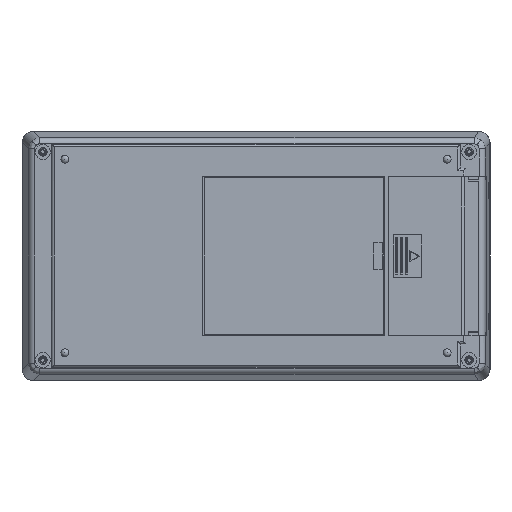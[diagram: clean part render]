
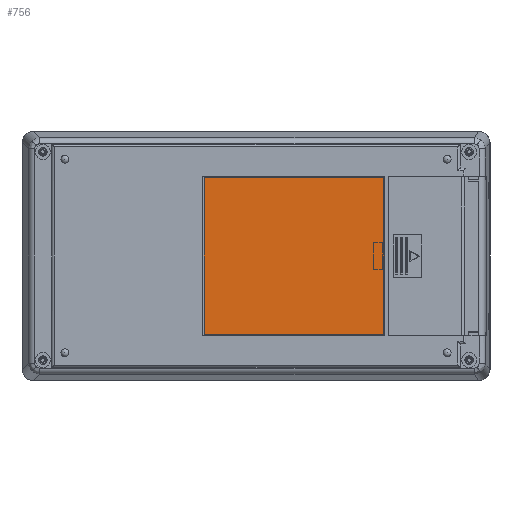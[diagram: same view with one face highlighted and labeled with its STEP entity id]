
A CAD part, front view. The second image highlights one B-rep face of the part: STEP entity #756.
In plain terms, the highlighted planar face has unit normal (0, -1, 0).
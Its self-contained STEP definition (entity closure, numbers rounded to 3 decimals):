
#756 = ADVANCED_FACE ( 'NONE', ( #14499 ), #8651, .T. ) ;
#1188 = VECTOR ( 'NONE', #15909, 1000. ) ;
#1558 = CARTESIAN_POINT ( 'NONE',  ( 52.1, -18.3, -32. ) ) ;
#1838 = CARTESIAN_POINT ( 'NONE',  ( 52.1, -18.3, 32. ) ) ;
#2050 = CARTESIAN_POINT ( 'NONE',  ( -95.3, -18.3, -50.7 ) ) ;
#2730 = VERTEX_POINT ( 'NONE', #14868 ) ;
#3473 = ORIENTED_EDGE ( 'NONE', *, *, #26463, .T. ) ;
#3781 = VECTOR ( 'NONE', #24007, 1000. ) ;
#4483 = LINE ( 'NONE', #1838, #3781 ) ;
#5292 = ORIENTED_EDGE ( 'NONE', *, *, #10744, .T. ) ;
#5696 = VECTOR ( 'NONE', #21113, 1000. ) ;
#6584 = VERTEX_POINT ( 'NONE', #6741 ) ;
#6697 = ORIENTED_EDGE ( 'NONE', *, *, #12140, .T. ) ;
#6741 = CARTESIAN_POINT ( 'NONE',  ( -21.2, -18.3, -32. ) ) ;
#7792 = LINE ( 'NONE', #22514, #1188 ) ;
#8651 = PLANE ( 'NONE',  #9320 ) ;
#8757 = DIRECTION ( 'NONE',  ( 0., 0., -1. ) ) ;
#9320 = AXIS2_PLACEMENT_3D ( 'NONE', #2050, #22003, #8757 ) ;
#9362 = CARTESIAN_POINT ( 'NONE',  ( 52.1, -18.3, 32. ) ) ;
#9774 = CARTESIAN_POINT ( 'NONE',  ( -21.2, -18.3, 32. ) ) ;
#10744 = EDGE_CURVE ( 'NONE', #2730, #6584, #14911, .T. ) ;
#11576 = LINE ( 'NONE', #25506, #5696 ) ;
#11993 = DIRECTION ( 'NONE',  ( 0., 0., -1. ) ) ;
#12140 = EDGE_CURVE ( 'NONE', #25943, #2730, #11576, .T. ) ;
#14499 = FACE_OUTER_BOUND ( 'NONE', #18967, .T. ) ;
#14868 = CARTESIAN_POINT ( 'NONE',  ( -21.2, -18.3, 32. ) ) ;
#14911 = LINE ( 'NONE', #9774, #20806 ) ;
#15909 = DIRECTION ( 'NONE',  ( 1., 0., 0. ) ) ;
#18967 = EDGE_LOOP ( 'NONE', ( #3473, #22665, #6697, #5292 ) ) ;
#20806 = VECTOR ( 'NONE', #11993, 1000. ) ;
#21113 = DIRECTION ( 'NONE',  ( -1., 0., 0. ) ) ;
#21700 = EDGE_CURVE ( 'NONE', #24081, #25943, #4483, .T. ) ;
#22003 = DIRECTION ( 'NONE',  ( 0., -1., 0. ) ) ;
#22514 = CARTESIAN_POINT ( 'NONE',  ( 52.1, -18.3, -32. ) ) ;
#22665 = ORIENTED_EDGE ( 'NONE', *, *, #21700, .T. ) ;
#24007 = DIRECTION ( 'NONE',  ( 0., 0., 1. ) ) ;
#24081 = VERTEX_POINT ( 'NONE', #1558 ) ;
#25506 = CARTESIAN_POINT ( 'NONE',  ( 52.1, -18.3, 32. ) ) ;
#25943 = VERTEX_POINT ( 'NONE', #9362 ) ;
#26463 = EDGE_CURVE ( 'NONE', #6584, #24081, #7792, .T. ) ;
